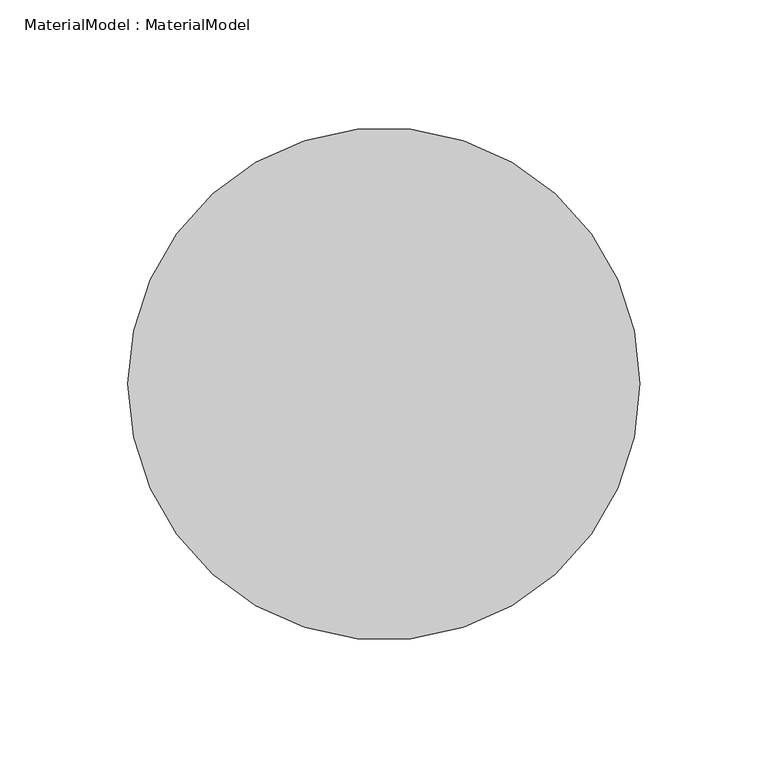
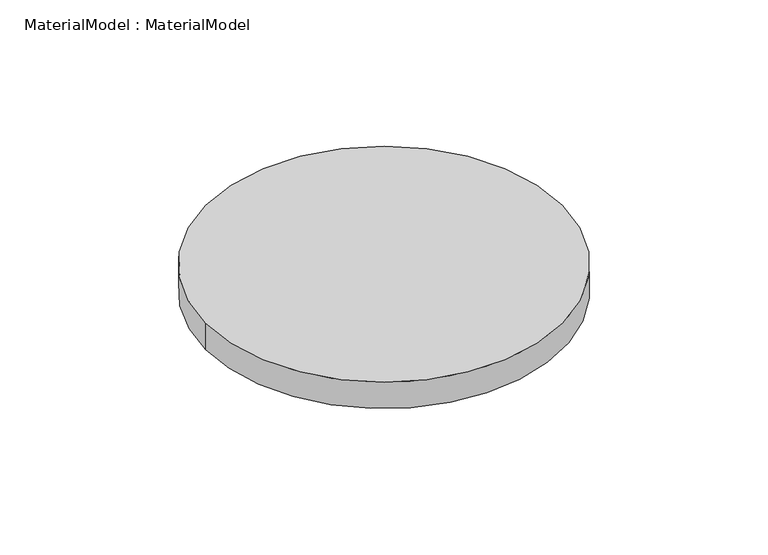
"""IFC4 building model written with IfcOpenShell, lengths in millimetres: proxy geometry, MaterialModel : MaterialModel."""

from ifc_helpers import new_model, si_unit, point, origin, origin_with_axes, origin_2d, place, context, project, spatial, circle_curve, trimmed, segment, composite_curve, outline, extrude, source, transform, mapped, element, save


def materialmodel_materialmodel_33d36961(model_context):
    return source(origin(), model_context, "Body", "SweptSolid", [
        extrude(outline(composite_curve([segment(trimmed(circle_curve(origin_2d(), 100.0), [point((-100.0, 0.0))], [point((100.0, 0.0))], False, "CARTESIAN"), True, "CONTINUOUS"), segment(trimmed(circle_curve(origin_2d(), 100.0), [point((100.0, 0.0))], [point((-100.0, 0.0))], False, "CARTESIAN"), True, "CONTINUOUS")], self_intersect=False)), origin_with_axes(), (0.0, 0.0, 1.0), 15.6926098),
    ])


if __name__ == "__main__":
    model = new_model("IFC4")
    model_context = context("Model", 3, world=origin())
    ifc_project = project(units=[si_unit("LENGTHUNIT", "METRE", prefix="MILLI")], contexts=[model_context])
    site = spatial("IfcSite", under=ifc_project)
    building = spatial("IfcBuilding", under=site)
    placement = place(None, origin())
    materialmodel_materialmodel_shape = materialmodel_materialmodel_33d36961(model_context)
    element("IfcBuildingElementProxy", 1, Name="MaterialModel : MaterialModel", ObjectType="MaterialModel : MaterialModel", at=placement, inside=building, context=model_context, shape_type="MappedRepresentation", body=[
        mapped(materialmodel_materialmodel_shape, transform((0.0, 0.0, 0.0), x_axis=(1.0, 0.0, 0.0), y_axis=(0.0, 1.0, 0.0), z_axis=(0.0, 0.0, 1.0))),
    ])
    save(model, "model.ifc")
